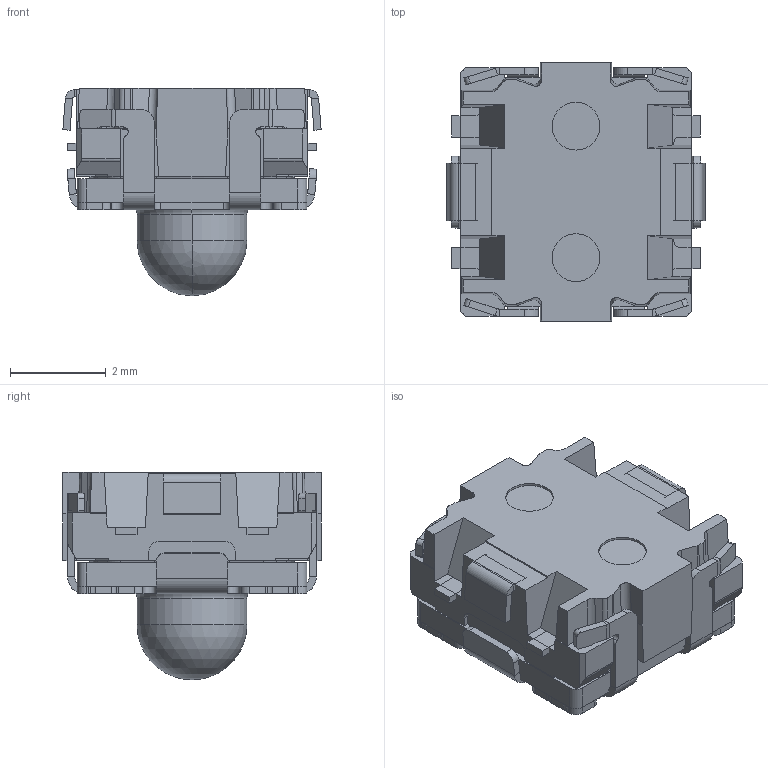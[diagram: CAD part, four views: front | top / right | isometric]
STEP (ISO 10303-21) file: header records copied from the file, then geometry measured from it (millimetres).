
FILE_DESCRIPTION((''),'2;1');
FILE_NAME('JQH5354FP-D0439-01G-1-158_ASM','2026-07-20T18:43:11',('Admin'),(''),'CREO PARAMETRIC BY PTC INC, 2019224','CREO PARAMETRIC BY PTC INC, 2019224','');
FILE_SCHEMA(('AUTOMOTIVE_DESIGN { 1 0 10303 214 1 1 1 1 }'));
Length unit declared in the file: millimetre
Products named in the file (2): JQH5354FP-D0439-01G-1-158_01; JQH5354FP-D0439-01G-1-158_ASM
Assembly tree (1 placements, depth 2):
  JQH5354FP-D0439-01G-1-158_ASM
    JQH5354FP-D0439-01G-1-158_01
Bounding box: 5.4 x 5.4 x 4.34 mm (x, y, z)
Volume: 19.5 mm3; surface area: 298.1 mm2
Topology: 1 solids, 4 shells, 896 faces, 2398 edges, 1495 vertices
Faces by surface type: plane 475, cylinder 283, torus 52, cone 50, sphere 22, extrusion 8, bspline 6
Entity records: 36668 total; most frequent: CARTESIAN_POINT 5459, DIRECTION 4784, ORIENTED_EDGE 4638, EDGE_CURVE 2391, PRESENTATION_STYLE_ASSIGNMENT 1646, AXIS2_PLACEMENT_3D 1616, STYLED_ITEM 1556, VECTOR 1552
